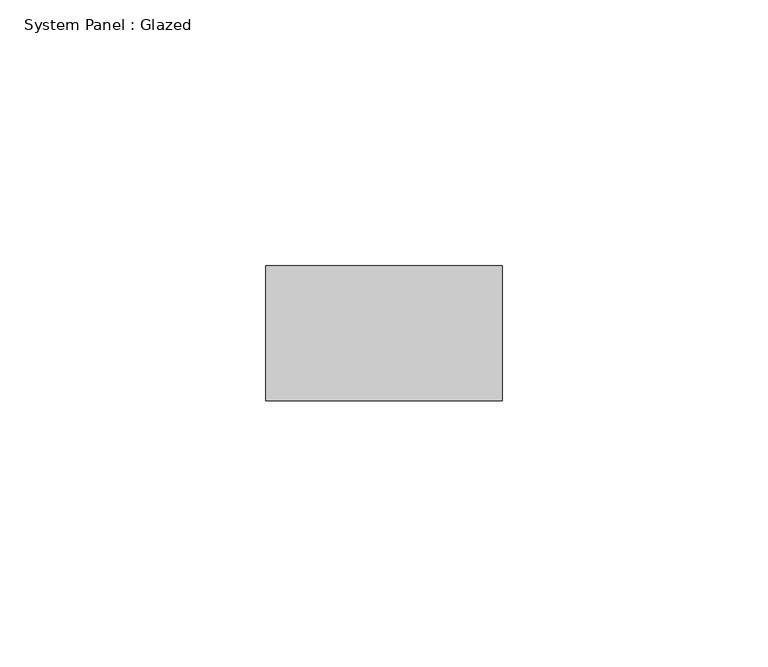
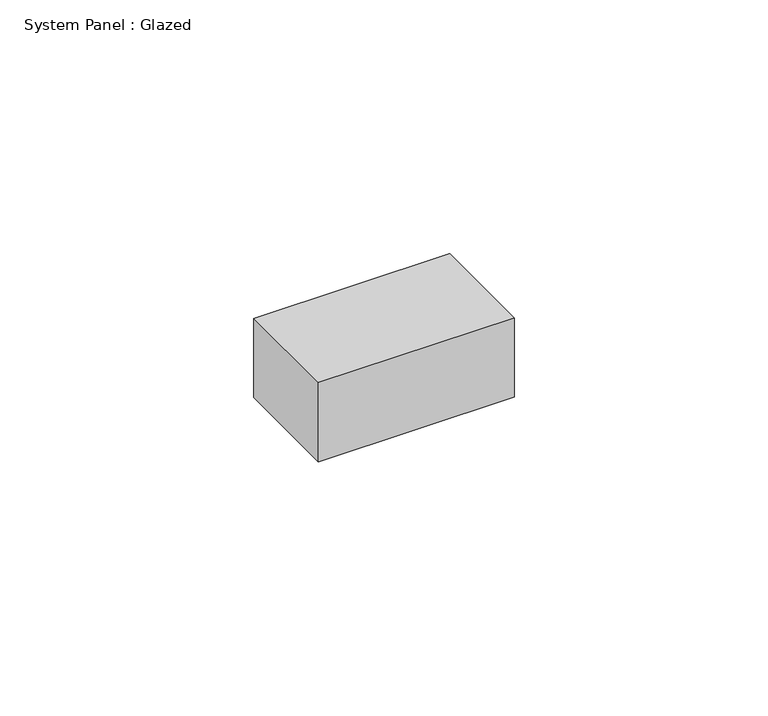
"""IFC4 building model written with IfcOpenShell, lengths in millimetres: plate geometry, System Panel : Glazed."""

from ifc_helpers import new_model, si_unit, origin, origin_with_axes, place, context, project, spatial, polyline, outline, extrude, source, transform, mapped, element, save


def system_panel_glazed_910c57ab(model_context):
    return source(origin(), model_context, "Body", "SweptSolid", [
        extrude(outline(polyline([(22.225, 19.05), (-22.225, 19.05), (-22.225, 44.45), (22.225, 44.45), (22.225, 19.05)])), origin_with_axes(), (0.0, 0.0, 1.0), 19.05),
    ])


if __name__ == "__main__":
    model = new_model("IFC4")
    model_context = context("Model", 3, world=origin())
    ifc_project = project(units=[si_unit("LENGTHUNIT", "METRE", prefix="MILLI")], contexts=[model_context])
    site = spatial("IfcSite", under=ifc_project)
    building = spatial("IfcBuilding", under=site)
    placement = place(None, origin())
    system_panel_glazed_shape = system_panel_glazed_910c57ab(model_context)
    element("IfcPlate", 1, ObjectType="System Panel : Glazed", at=placement, inside=building, context=model_context, shape_type="MappedRepresentation", body=[
        mapped(system_panel_glazed_shape, transform((0.0, 0.0, 0.0), x_axis=(1.0, 0.0, 0.0), y_axis=(0.0, 1.0, 0.0), z_axis=(0.0, 0.0, 1.0))),
    ])
    save(model, "model.ifc")
